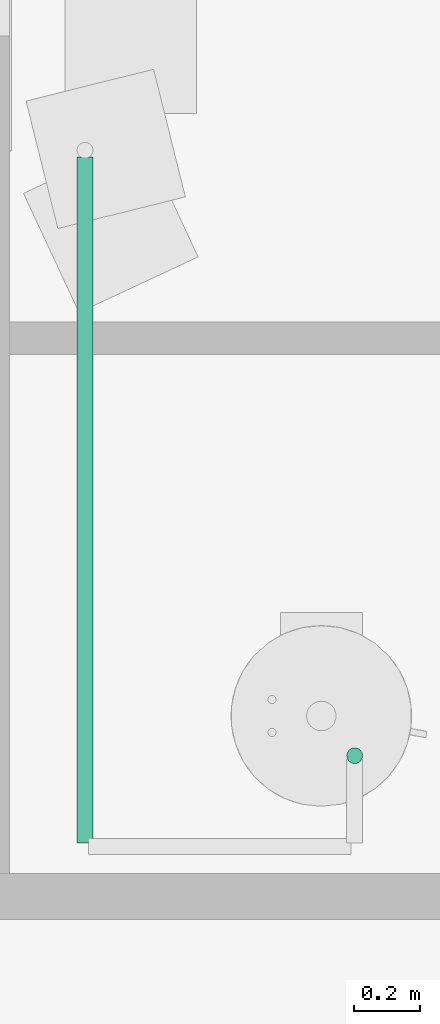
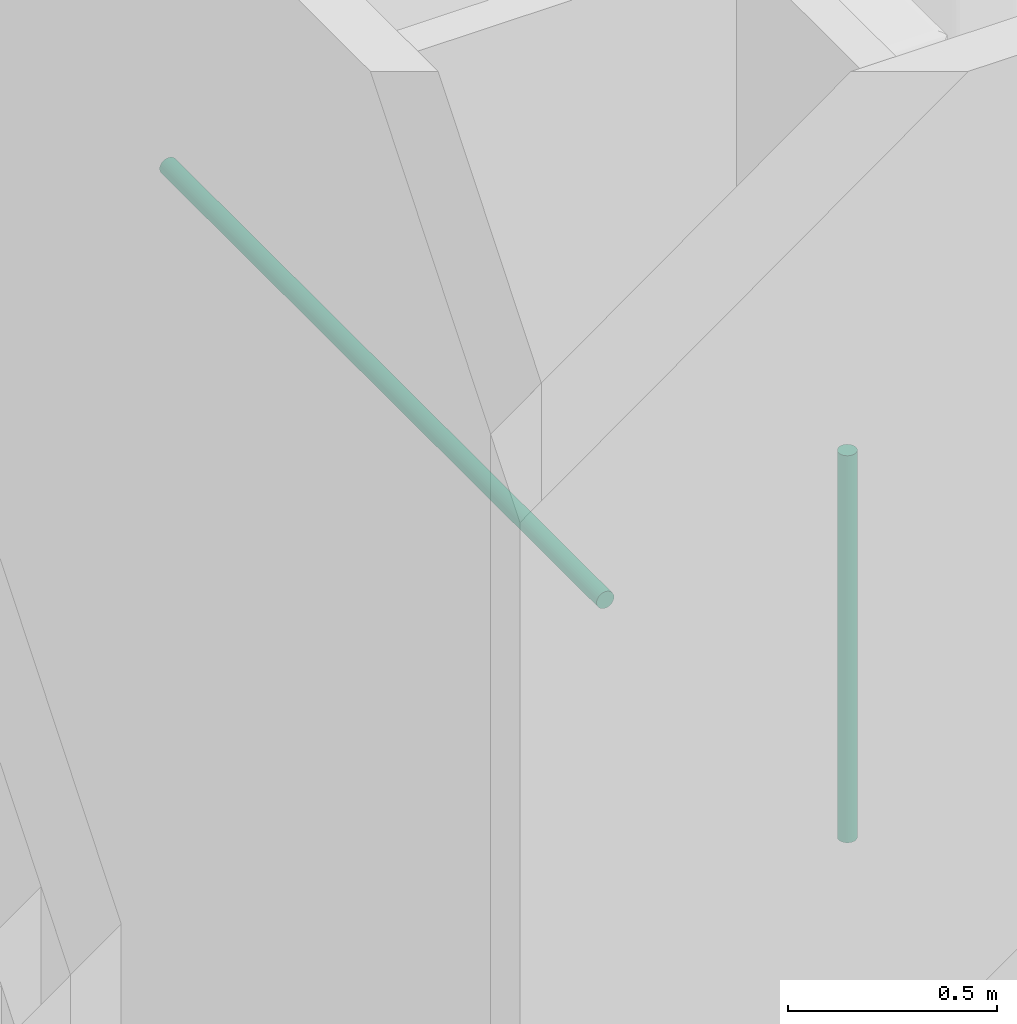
# One storey, part 33 of 72: 2 pipe segments.
"""IFC4 building model written with IfcOpenShell, lengths in centimetres."""

import ifcopenshell
import ifcopenshell.guid

model = None  # the IFC model being written
_history = None  # IfcOwnerHistory: only IFC2X3 demands one
_inside = {}  # id of a spatial element -> (the spatial element, [elements in it])
_under = {}  # id of a project, library or spatial element -> (it, [spatial elements below it])
_declared = {}  # id of a project -> (the project, [libraries it declares])
_typed = {}  # id of a type object -> (the type object, [elements of that type])
_made_of = {}  # id of a material, layer set ... -> (it, [elements and type objects made of it])


def new_model(schema):
    """Start an empty IFC model of exactly this schema.

    Asked for "IFC4X3", IfcOpenShell would pick the latest addendum, in which some entities
    have other attributes; the version numbers below select the first issue.
    IFC2X3 requires an IfcOwnerHistory on every rooted entity: one is made here for all.
    """
    global model, _history
    if schema == "IFC4X3":
        model = ifcopenshell.file(schema_version=(4, 3, 0, 0))
    else:
        model = ifcopenshell.file(schema=schema)
    _inside.clear()
    _under.clear()
    _declared.clear()
    _typed.clear()
    _made_of.clear()
    _history = None
    if model.schema == "IFC2X3":
        org = make("IfcOrganization", Name="unknown")
        user = make(
            "IfcPersonAndOrganization",
            ThePerson=make("IfcPerson", FamilyName="unknown"),
            TheOrganization=org,
        )
        app = make(
            "IfcApplication",
            ApplicationDeveloper=org,
            Version="unknown",
            ApplicationFullName="unknown",
            ApplicationIdentifier="unknown",
        )
        _history = make(
            "IfcOwnerHistory",
            OwningUser=user,
            OwningApplication=app,
            ChangeAction="ADDED",
            CreationDate=0,
        )
    return model


def make(cls, **values):
    """One entity of the class cls with the attributes given. An attribute that is None is left unset."""
    return model.create_entity(
        cls, **{name: value for name, value in values.items() if value is not None}
    )


def entity(cls, *values):
    """Any entity or typed value of the class cls, its attributes in the order of the schema. None: left unset."""
    e = model.create_entity(cls)
    for i, value in enumerate(values):
        if value is not None:
            e[i] = value
    return e


def rooted(cls, **values):
    """An entity with a GlobalId (a new one), such as an element, a storey or a relation."""
    return make(cls, GlobalId=ifcopenshell.guid.new(), OwnerHistory=_history, **values)


def si_unit(unit_type, name, prefix=None):
    """IfcSIUnit, for example si_unit("LENGTHUNIT", "METRE", prefix="MILLI")."""
    return make("IfcSIUnit", UnitType=unit_type, Prefix=prefix, Name=name)


def converted_unit(unit_type, name, factor, base, dimensions=None, offset=None):
    """IfcConversionBasedUnit, such as the inch: factor (a typed value) times the base unit."""
    return make(
        "IfcConversionBasedUnit"
        if offset is None
        else "IfcConversionBasedUnitWithOffset",
        ConversionOffset=offset,
        Dimensions=None
        if dimensions is None
        else entity("IfcDimensionalExponents", *dimensions),
        UnitType=unit_type,
        Name=name,
        ConversionFactor=make(
            "IfcMeasureWithUnit", ValueComponent=factor, UnitComponent=base
        ),
    )


def derived_unit(unit_type, elements):
    """IfcDerivedUnit: a product of units, each with its exponent."""
    return make(
        "IfcDerivedUnit",
        Elements=[
            make("IfcDerivedUnitElement", Unit=unit, Exponent=power)
            for unit, power in elements
        ],
        UnitType=unit_type,
    )


def assignment(units):
    """IfcUnitAssignment: the units of a project."""
    return None if units is None else make("IfcUnitAssignment", Units=units)


def point(xyz):
    """IfcCartesianPoint."""
    return None if xyz is None else make("IfcCartesianPoint", Coordinates=xyz)


def direction(xyz):
    """IfcDirection."""
    return None if xyz is None else make("IfcDirection", DirectionRatios=xyz)


def frame(location, z_axis=None, x_axis=None):
    """IfcAxis2Placement3D, a coordinate frame: its origin and axes. An axis left out is left unset."""
    return make(
        "IfcAxis2Placement3D",
        Location=point(location),
        Axis=direction(z_axis),
        RefDirection=direction(x_axis),
    )


def origin():
    """The frame at (0, 0, 0) with its axes left unset."""
    return frame((0.0, 0.0, 0.0))


def place(relative_to, where):
    """IfcLocalPlacement: puts the frame where relative to a parent placement (None: the world)."""
    return make(
        "IfcLocalPlacement", PlacementRelTo=relative_to, RelativePlacement=where
    )


def context(
    kind, dimensions, precision=None, world=None, true_north=None, identifier=None
):
    """IfcGeometricRepresentationContext, for example the 3D "Model" context."""
    return make(
        "IfcGeometricRepresentationContext",
        ContextIdentifier=identifier,
        ContextType=kind,
        CoordinateSpaceDimension=dimensions,
        Precision=precision,
        WorldCoordinateSystem=world,
        TrueNorth=true_north,
    )


def subcontext(parent, identifier, kind, view, scale=None):
    """IfcGeometricRepresentationSubContext, for example "Body" below "Model"."""
    return make(
        "IfcGeometricRepresentationSubContext",
        ContextIdentifier=identifier,
        ContextType=kind,
        ParentContext=parent,
        TargetScale=scale,
        TargetView=view,
    )


def project(units=None, contexts=None):
    """IfcProject with its units and contexts."""
    return rooted(
        "IfcProject",
        Name="project",
        RepresentationContexts=contexts,
        UnitsInContext=assignment(units),
    )


def spatial(cls, under=None, at=None, **own):
    """A site, building, storey or space (cls), placed at a placement, below another one or the project."""
    s = rooted(cls, ObjectPlacement=at, **own)
    if under is not None:
        _under.setdefault(under.id(), (under, []))[1].append(s)
    return s


def point_list(points):
    """IfcCartesianPointList2D or 3D."""
    cls = (
        "IfcCartesianPointList2D" if len(points[0]) == 2 else "IfcCartesianPointList3D"
    )
    return make(cls, CoordList=points)


def arc(*indices):
    """IfcArcIndex: an arc through three numbered points of an indexed curve."""
    return model.create_entity("IfcArcIndex", indices)


def indexed_curve(points, segments=None, self_intersect=None):
    """IfcIndexedPolyCurve: lines and arcs through numbered points (the first is 1)."""
    return make(
        "IfcIndexedPolyCurve",
        Points=point_list(points),
        Segments=segments,
        SelfIntersect=self_intersect,
    )


def outline(outer, holes=None, kind="AREA"):
    """IfcArbitraryClosedProfileDef: a profile drawn as a closed curve; with holes, ...WithVoids."""
    if holes is None:
        return make("IfcArbitraryClosedProfileDef", ProfileType=kind, OuterCurve=outer)
    return make(
        "IfcArbitraryProfileDefWithVoids",
        ProfileType=kind,
        OuterCurve=outer,
        InnerCurves=holes,
    )


def extrude(swept, where, along, depth):
    """IfcExtrudedAreaSolid: the profile swept, set in the frame where, extruded along a direction by depth."""
    return make(
        "IfcExtrudedAreaSolid",
        SweptArea=swept,
        Position=where,
        ExtrudedDirection=direction(along),
        Depth=depth,
    )


def shape(context_of_items, identifier, shape_type, items):
    """IfcShapeRepresentation: the items that make up one representation, for example the "Body"."""
    return make(
        "IfcShapeRepresentation",
        ContextOfItems=context_of_items,
        RepresentationIdentifier=identifier,
        RepresentationType=shape_type,
        Items=items,
    )


def made_of(thing, what):
    """Note that an element or type object is made of a material, layer set ...; save() writes the relation."""
    if what is not None:
        _made_of.setdefault(what.id(), (what, []))[1].append(thing)
    return thing


def type_object(cls, material=None, **own):
    """A type object (cls), such as IfcWallType, which elements share."""
    return made_of(rooted(cls, **own), material)


def element(
    cls,
    number,
    at=None,
    inside=None,
    cuts=None,
    type_object=None,
    material=None,
    context=None,
    identifier="Body",
    shape_type=None,
    held_by="IfcProductDefinitionShape",
    body=None,
    shapes=None,
    **own,
):
    """One element of the class cls, such as IfcWall. Its Tag is "e" and its number.

    at: its placement. inside: the storey or other place that contains it. cuts: it is an
    opening in that element (IfcRelVoidsElement). A single representation is given by context,
    identifier, shape_type and body (its items); several are given by shapes. held_by: the class
    of the entity that holds the representations. save() writes the other relations.
    """
    e = rooted(cls, Tag="e%d" % number, ObjectPlacement=at, **own)
    if body is not None:
        shapes = [shape(context, identifier, shape_type, body)]
    if shapes is not None:
        e.Representation = make(held_by, Representations=shapes)
    if inside is not None:
        _inside.setdefault(inside.id(), (inside, []))[1].append(e)
    if cuts is not None:
        rooted(
            "IfcRelVoidsElement", RelatingBuildingElement=cuts, RelatedOpeningElement=e
        )
    if type_object is not None:
        _typed.setdefault(type_object.id(), (type_object, []))[1].append(e)
    return made_of(e, material)


def aggregate(whole, parts):
    """IfcRelAggregates: a whole, such as a stair, and the parts it consists of."""
    return rooted("IfcRelAggregates", RelatingObject=whole, RelatedObjects=parts)


def save(model, path):
    """Write the relations noted so far, then the file.

    IfcRelAggregates (storeys below a building ...), IfcRelContainedInSpatialStructure (elements
    in a storey), IfcRelDefinesByType, IfcRelAssociatesMaterial and IfcRelDeclares: one each for
    every whole, place, type object, material and project.
    """
    for whole, parts in _under.values():
        aggregate(whole, parts)
    for where, things in _inside.values():
        rooted(
            "IfcRelContainedInSpatialStructure",
            RelatedElements=things,
            RelatingStructure=where,
        )
    for kind, things in _typed.values():
        rooted("IfcRelDefinesByType", RelatedObjects=things, RelatingType=kind)
    for what, things in _made_of.values():
        rooted("IfcRelAssociatesMaterial", RelatedObjects=things, RelatingMaterial=what)
    for by, libraries in _declared.values():
        rooted("IfcRelDeclares", RelatingContext=by, RelatedDefinitions=libraries)
    model.write(path)


model = new_model("IFC4")

# Units and contexts
model_context = context("Model", 3, precision=0.001, world=origin(), true_north=direction((6.123233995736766e-17, 1.0)))
body_context = subcontext(model_context, "Body", "Model", "MODEL_VIEW")
ifc_project = project(units=[si_unit("LENGTHUNIT", "METRE", prefix="CENTI"), si_unit("AREAUNIT", "SQUARE_METRE"), si_unit("VOLUMEUNIT", "CUBIC_METRE"), derived_unit("THERMALTRANSMITTANCEUNIT", [(si_unit("MASSUNIT", "GRAM", prefix="KILO"), 1), (si_unit("THERMODYNAMICTEMPERATUREUNIT", "KELVIN"), -1), (si_unit("TIMEUNIT", "SECOND"), -3)]), converted_unit("PLANEANGLEUNIT", "DEGREE", entity("IfcPlaneAngleMeasure", 0.017453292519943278), si_unit("PLANEANGLEUNIT", "RADIAN"), dimensions=[0, 0, 0, 0, 0, 0, 0]), derived_unit("MASSDENSITYUNIT", [(si_unit("MASSUNIT", "GRAM", prefix="KILO"), 1), (si_unit("LENGTHUNIT", "METRE"), -3)]), derived_unit("VAPORPERMEABILITYUNIT", [(si_unit("LENGTHUNIT", "METRE"), -1), (si_unit("TIMEUNIT", "SECOND"), 1)]), derived_unit("USERDEFINED", [(si_unit("MASSUNIT", "GRAM", prefix="KILO"), 1), (si_unit("TIMEUNIT", "SECOND"), -3), (si_unit("LENGTHUNIT", "METRE"), 3), (si_unit("ELECTRICCURRENTUNIT", "AMPERE"), -2)]), derived_unit("SPECIFICHEATCAPACITYUNIT", [(si_unit("THERMODYNAMICTEMPERATUREUNIT", "KELVIN"), -1), (si_unit("LENGTHUNIT", "METRE"), 2), (si_unit("TIMEUNIT", "SECOND"), -2)]), derived_unit("THERMALCONDUCTANCEUNIT", [(si_unit("MASSUNIT", "GRAM", prefix="KILO"), 1), (si_unit("THERMODYNAMICTEMPERATUREUNIT", "KELVIN"), -1), (si_unit("TIMEUNIT", "SECOND"), -3), (si_unit("LENGTHUNIT", "METRE"), 1)]), si_unit("PRESSUREUNIT", "PASCAL"), derived_unit("MODULUSOFELASTICITYUNIT", [(si_unit("MASSUNIT", "GRAM", prefix="KILO"), 1), (si_unit("LENGTHUNIT", "METRE"), -1), (si_unit("TIMEUNIT", "SECOND"), -2)]), derived_unit("THERMALEXPANSIONCOEFFICIENTUNIT", [(si_unit("THERMODYNAMICTEMPERATUREUNIT", "KELVIN"), -1)])], contexts=[model_context])

# Site, building, storey
site_placement = place(None, origin())
site = spatial("IfcSite", under=ifc_project, at=site_placement, Name="Default", CompositionType="ELEMENT")
building_placement = place(site_placement, origin())
building = spatial("IfcBuilding", under=site, at=building_placement, Name="IDS Escape Game Building", CompositionType="ELEMENT")
storey_placement = place(building_placement, frame((0.0, 0.0, 800.0)))
storey = spatial("IfcBuildingStorey", under=building, at=storey_placement, Name="02_Second Floor", CompositionType="ELEMENT", Elevation=800.0)

# Pipe segments
pipe_segment_type = type_object("IfcPipeSegmentType", Name="Pipe Types:Piping Aluminum", PredefinedType="NOTDEFINED")
pipe_segment_1_placement = place(storey_placement, origin())
element("IfcPipeSegment", 1, at=pipe_segment_1_placement, inside=storey, type_object=pipe_segment_type, Name="Pipe Types:Piping Aluminum", ObjectType="Pipe Types:Piping Aluminum", PredefinedType="NOTDEFINED", context=body_context, shape_type="SweptSolid", body=[
    extrude(outline(indexed_curve([(2.412999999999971, 0.0), (1.7062486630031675, 1.7062486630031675), (0.0, 2.412999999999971), (-1.7062486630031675, 1.7062486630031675), (-2.412999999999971, 0.0), (-1.7062486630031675, -1.7062486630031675), (0.0, -2.412999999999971), (1.7062486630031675, -1.7062486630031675)], segments=[arc(1, 2, 3), arc(3, 4, 5), arc(5, 6, 7), arc(7, 8, 1)], self_intersect=False)), frame((3064.1500000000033, 1962.9000000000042, 128.0), z_axis=(0.0, 0.0, 1.0), x_axis=(-1.0, 0.0, 0.0)), (0.0, 0.0, 1.0), 112.90000000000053),
])
pipe_segment_2_placement = place(storey_placement, origin())
element("IfcPipeSegment", 2, at=pipe_segment_2_placement, inside=storey, type_object=pipe_segment_type, Name="Pipe Types:Piping Aluminum", ObjectType="Pipe Types:Piping Aluminum", PredefinedType="NOTDEFINED", context=body_context, shape_type="SweptSolid", body=[
    extrude(outline(indexed_curve([(2.412999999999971, 0.0), (1.7062486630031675, 1.7062486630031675), (0.0, 2.412999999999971), (-1.7062486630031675, 1.7062486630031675), (-2.412999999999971, 0.0), (-1.7062486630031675, -1.7062486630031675), (0.0, -2.412999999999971), (1.7062486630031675, -1.7062486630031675)], segments=[arc(1, 2, 3), arc(3, 4, 5), arc(5, 6, 7), arc(7, 8, 1)], self_intersect=False)), frame((2982.046716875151, 1936.3648279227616, 242.0), z_axis=(0.0, 1.0, 0.0), x_axis=(1.0, 0.0, 0.0)), (0.0, 0.0, 1.0), 208.80000000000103),
])

save(model, "model.ifc")
